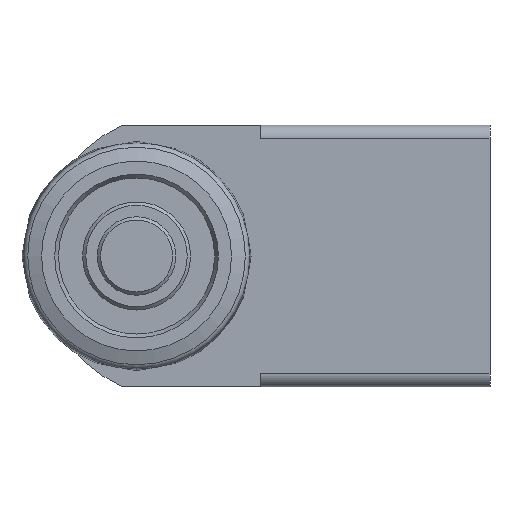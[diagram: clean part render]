
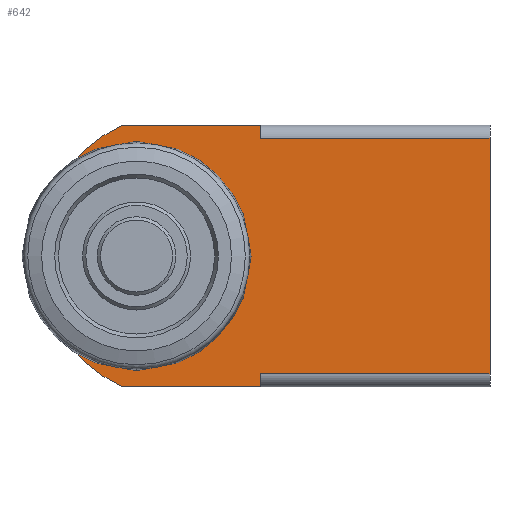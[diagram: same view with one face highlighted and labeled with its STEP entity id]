
A CAD part, left-side view. The second image highlights one B-rep face of the part: STEP entity #642.
In plain terms, the highlighted planar face has unit normal (-1, 0, 0) as drawn and (0, 0, 1) by its records, which use the part's own axes.
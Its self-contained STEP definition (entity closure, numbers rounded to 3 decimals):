
#35=LINE('',#1088,#61);
#38=LINE('',#1095,#64);
#44=LINE('',#1117,#70);
#45=LINE('',#1120,#71);
#52=LINE('',#1138,#78);
#58=LINE('',#1148,#84);
#60=LINE('',#1160,#86);
#61=VECTOR('',#871,35.);
#64=VECTOR('',#878,2.);
#70=VECTOR('',#898,35.);
#71=VECTOR('',#901,2.);
#78=VECTOR('',#918,21.165);
#84=VECTOR('',#926,21.165);
#86=VECTOR('',#944,36.);
#133=PLANE('',#735);
#173=FACE_BOUND('',#290,.T.);
#217=FACE_OUTER_BOUND('',#289,.T.);
#289=EDGE_LOOP('',(#587,#588,#589,#590,#591,#592,#593,#594));
#290=EDGE_LOOP('',(#595));
#331=CIRCLE('',#731,5.05);
#332=CIRCLE('',#733,22.);
#363=VERTEX_POINT('',#1084);
#365=VERTEX_POINT('',#1087);
#367=VERTEX_POINT('',#1093);
#374=VERTEX_POINT('',#1111);
#376=VERTEX_POINT('',#1115);
#377=VERTEX_POINT('',#1119);
#383=VERTEX_POINT('',#1137);
#386=VERTEX_POINT('',#1146);
#388=VERTEX_POINT('',#1155);
#421=EDGE_CURVE('',#363,#365,#35,.T.);
#425=EDGE_CURVE('',#363,#367,#38,.T.);
#435=EDGE_CURVE('',#374,#376,#44,.T.);
#436=EDGE_CURVE('',#377,#374,#45,.T.);
#445=EDGE_CURVE('',#383,#377,#52,.T.);
#451=EDGE_CURVE('',#367,#386,#58,.T.);
#455=EDGE_CURVE('',#388,#388,#331,.T.);
#456=EDGE_CURVE('',#386,#383,#332,.T.);
#457=EDGE_CURVE('',#376,#365,#60,.T.);
#587=ORIENTED_EDGE('',*,*,#425,.T.);
#588=ORIENTED_EDGE('',*,*,#451,.T.);
#589=ORIENTED_EDGE('',*,*,#456,.T.);
#590=ORIENTED_EDGE('',*,*,#445,.T.);
#591=ORIENTED_EDGE('',*,*,#436,.T.);
#592=ORIENTED_EDGE('',*,*,#435,.T.);
#593=ORIENTED_EDGE('',*,*,#457,.T.);
#594=ORIENTED_EDGE('',*,*,#421,.F.);
#595=ORIENTED_EDGE('',*,*,#455,.T.);
#642=ADVANCED_FACE('',(#217,#173),#133,.T.);
#731=AXIS2_PLACEMENT_3D('',#1156,#936,#937);
#733=AXIS2_PLACEMENT_3D('',#1158,#940,#941);
#735=AXIS2_PLACEMENT_3D('',#1161,#945,#946);
#871=DIRECTION('',(0.,-1.,0.));
#878=DIRECTION('',(1.,0.,0.));
#898=DIRECTION('',(0.,-1.,0.));
#901=DIRECTION('',(1.,0.,0.));
#918=DIRECTION('',(0.,-1.,0.));
#926=DIRECTION('',(0.,1.,0.));
#936=DIRECTION('center_axis',(0.,0.,-1.));
#937=DIRECTION('ref_axis',(1.,0.,0.));
#940=DIRECTION('center_axis',(0.,0.,1.));
#941=DIRECTION('ref_axis',(0.909,0.417,0.));
#944=DIRECTION('',(1.,0.,0.));
#945=DIRECTION('center_axis',(0.,0.,1.));
#946=DIRECTION('ref_axis',(1.,0.,0.));
#1084=CARTESIAN_POINT('',(18.,-19.,0.));
#1087=CARTESIAN_POINT('',(18.,-54.,0.));
#1088=CARTESIAN_POINT('',(18.,-54.,0.));
#1093=CARTESIAN_POINT('',(20.,-19.,0.));
#1095=CARTESIAN_POINT('',(9.694,-19.,0.));
#1111=CARTESIAN_POINT('',(-18.,-19.,0.));
#1115=CARTESIAN_POINT('',(-18.,-54.,0.));
#1117=CARTESIAN_POINT('',(-18.,-54.,0.));
#1119=CARTESIAN_POINT('',(-20.,-19.,0.));
#1120=CARTESIAN_POINT('',(-9.694,-19.,0.));
#1137=CARTESIAN_POINT('',(-20.,2.165,0.));
#1138=CARTESIAN_POINT('',(-20.,2.165,0.));
#1146=CARTESIAN_POINT('',(20.,2.165,0.));
#1148=CARTESIAN_POINT('',(20.,-54.,0.));
#1155=CARTESIAN_POINT('',(5.05,0.,0.));
#1156=CARTESIAN_POINT('Origin',(0.,0.,0.));
#1158=CARTESIAN_POINT('Origin',(0.,-7.,0.));
#1160=CARTESIAN_POINT('',(-20.,-54.,0.));
#1161=CARTESIAN_POINT('Origin',(0.,-22.635,
0.));
